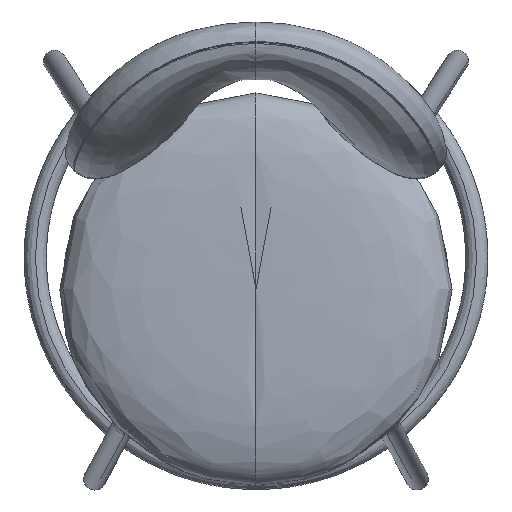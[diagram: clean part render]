
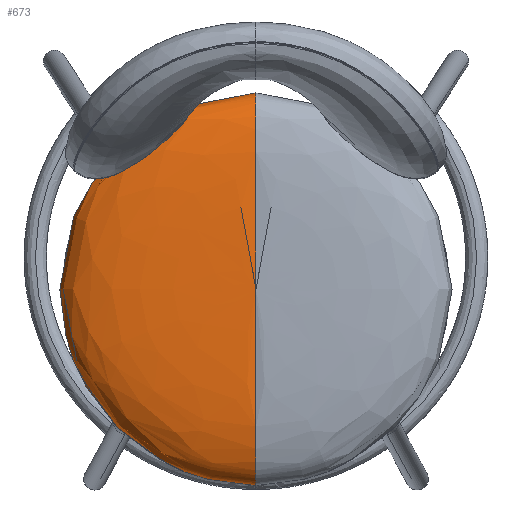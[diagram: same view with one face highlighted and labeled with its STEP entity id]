
A CAD part, top view. The second image highlights one B-rep face of the part: STEP entity #673.
In plain terms, the highlighted free-form (B-spline) face has degree [3, 2] with [8, 5] control points.
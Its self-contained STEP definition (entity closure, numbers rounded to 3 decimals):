
#222=(
BOUNDED_SURFACE()
B_SPLINE_SURFACE(3,2,((#56138,#56139,#56140,#56141,#56142),(#56143,#56144,
#56145,#56146,#56147),(#56148,#56149,#56150,#56151,#56152),(#56153,#56154,
#56155,#56156,#56157),(#56158,#56159,#56160,#56161,#56162),(#56163,#56164,
#56165,#56166,#56167),(#56168,#56169,#56170,#56171,#56172),(#56173,#56174,
#56175,#56176,#56177)),.UNSPECIFIED.,.F.,.F.,.F.)
B_SPLINE_SURFACE_WITH_KNOTS((4,3,1,4),(3,2,3),(-265.,0.,117.5,
235.),(691.148,1036.723,1382.297),
 .UNSPECIFIED.)
GEOMETRIC_REPRESENTATION_ITEM()
RATIONAL_B_SPLINE_SURFACE(((1.,0.707,1.,0.707,1.),
(1.,0.707,1.,0.707,1.),(1.,0.707,1.,
0.707,1.),(1.,0.707,1.,0.707,1.),(1.,
0.707,1.,0.707,1.),(1.,0.707,1.,0.707,
1.),(1.,0.707,1.,0.707,1.),(1.,0.707,
1.,0.707,1.)))
REPRESENTATION_ITEM('')
SURFACE()
);
#673=ADVANCED_FACE('',(#767),#222,.T.);
#767=FACE_OUTER_BOUND('',#861,.T.);
#861=EDGE_LOOP('',(#1182,#1183));
#1182=ORIENTED_EDGE('',*,*,#1471,.T.);
#1183=ORIENTED_EDGE('',*,*,#1470,.F.);
#1470=EDGE_CURVE('',#1756,#1757,#1534,.T.);
#1471=EDGE_CURVE('',#1756,#1757,#1535,.T.);
#1534=B_SPLINE_CURVE_WITH_KNOTS('',3,(#56180,#56181,#56182,#56183,#56184,
#56185,#56186,#56187),.UNSPECIFIED.,.F.,.F.,(4,3,1,4),(-265.,
0.,117.5,235.),.UNSPECIFIED.);
#1535=B_SPLINE_CURVE_WITH_KNOTS('',3,(#56188,#56189,#56190,#56191,#56192,
#56193,#56194,#56195),.UNSPECIFIED.,.F.,.F.,(4,3,1,4),(-265.,
0.,117.5,235.),.UNSPECIFIED.);
#1756=VERTEX_POINT('',#56178);
#1757=VERTEX_POINT('',#56179);
#56138=CARTESIAN_POINT('',(-83.125,2728.154,750.));
#56139=CARTESIAN_POINT('',(-83.125,2728.154,750.));
#56140=CARTESIAN_POINT('',(-83.125,2728.154,750.));
#56141=CARTESIAN_POINT('',(-83.125,2728.154,750.));
#56142=CARTESIAN_POINT('',(-83.125,2728.154,750.));
#56143=CARTESIAN_POINT('',(-83.125,2866.534,750.));
#56144=CARTESIAN_POINT('',(-221.505,2866.534,750.));
#56145=CARTESIAN_POINT('',(-221.505,2728.154,750.));
#56146=CARTESIAN_POINT('',(-221.505,2589.774,750.));
#56147=CARTESIAN_POINT('',(-83.125,2589.774,750.));
#56148=CARTESIAN_POINT('',(-83.125,2948.154,750.));
#56149=CARTESIAN_POINT('',(-303.125,2948.154,750.));
#56150=CARTESIAN_POINT('',(-303.125,2728.154,750.));
#56151=CARTESIAN_POINT('',(-303.125,2508.154,750.));
#56152=CARTESIAN_POINT('',(-83.125,2508.154,750.));
#56153=CARTESIAN_POINT('',(-83.125,2948.154,705.));
#56154=CARTESIAN_POINT('',(-303.125,2948.154,705.));
#56155=CARTESIAN_POINT('',(-303.125,2728.154,705.));
#56156=CARTESIAN_POINT('',(-303.125,2508.154,705.));
#56157=CARTESIAN_POINT('',(-83.125,2508.154,705.));
#56158=CARTESIAN_POINT('',(-83.125,2948.154,690.));
#56159=CARTESIAN_POINT('',(-303.125,2948.154,690.));
#56160=CARTESIAN_POINT('',(-303.125,2728.154,690.));
#56161=CARTESIAN_POINT('',(-303.125,2508.154,690.));
#56162=CARTESIAN_POINT('',(-83.125,2508.154,690.));
#56163=CARTESIAN_POINT('',(-83.125,2933.433,690.));
#56164=CARTESIAN_POINT('',(-288.404,2933.433,690.));
#56165=CARTESIAN_POINT('',(-288.404,2728.154,690.));
#56166=CARTESIAN_POINT('',(-288.404,2522.874,690.));
#56167=CARTESIAN_POINT('',(-83.125,2522.874,690.));
#56168=CARTESIAN_POINT('',(-83.125,2897.272,690.));
#56169=CARTESIAN_POINT('',(-252.243,2897.272,690.));
#56170=CARTESIAN_POINT('',(-252.243,2728.154,690.));
#56171=CARTESIAN_POINT('',(-252.243,2559.036,690.));
#56172=CARTESIAN_POINT('',(-83.125,2559.036,690.));
#56173=CARTESIAN_POINT('',(-83.125,2728.154,690.));
#56174=CARTESIAN_POINT('',(-83.125,2728.154,690.));
#56175=CARTESIAN_POINT('',(-83.125,2728.154,690.));
#56176=CARTESIAN_POINT('',(-83.125,2728.154,690.));
#56177=CARTESIAN_POINT('',(-83.125,2728.154,690.));
#56178=CARTESIAN_POINT('',(-83.125,2728.154,750.));
#56179=CARTESIAN_POINT('',(-83.125,2728.154,690.));
#56180=CARTESIAN_POINT('',(-83.125,2728.154,750.));
#56181=CARTESIAN_POINT('',(-83.125,2589.774,750.));
#56182=CARTESIAN_POINT('',(-83.125,2508.154,750.));
#56183=CARTESIAN_POINT('',(-83.125,2508.154,705.));
#56184=CARTESIAN_POINT('',(-83.125,2508.154,690.));
#56185=CARTESIAN_POINT('',(-83.125,2522.874,690.));
#56186=CARTESIAN_POINT('',(-83.125,2559.036,690.));
#56187=CARTESIAN_POINT('',(-83.125,2728.154,690.));
#56188=CARTESIAN_POINT('',(-83.125,2728.154,750.));
#56189=CARTESIAN_POINT('',(-83.125,2866.534,750.));
#56190=CARTESIAN_POINT('',(-83.125,2948.154,750.));
#56191=CARTESIAN_POINT('',(-83.125,2948.154,705.));
#56192=CARTESIAN_POINT('',(-83.125,2948.154,690.));
#56193=CARTESIAN_POINT('',(-83.125,2933.433,690.));
#56194=CARTESIAN_POINT('',(-83.125,2897.272,690.));
#56195=CARTESIAN_POINT('',(-83.125,2728.154,690.));
